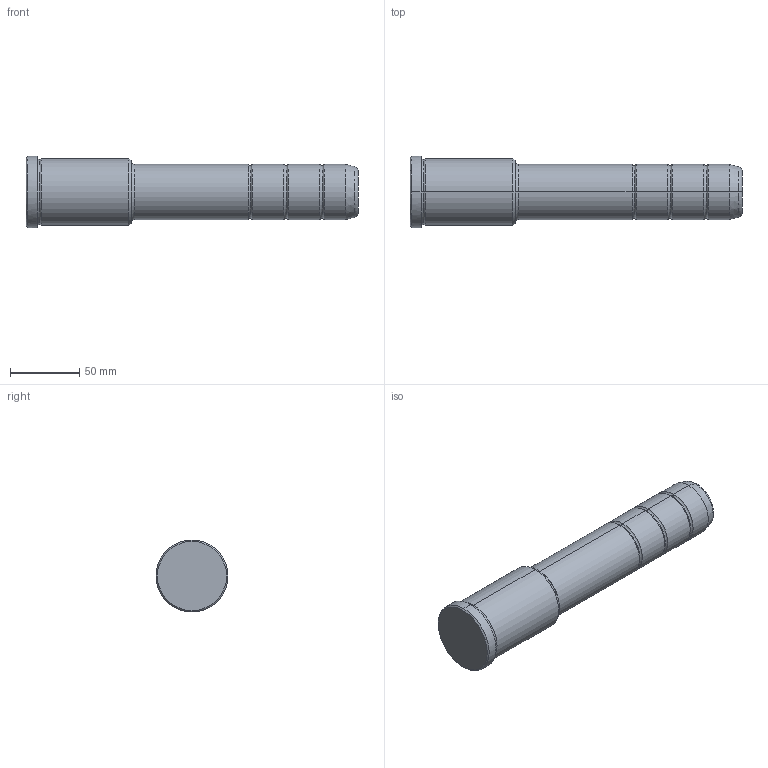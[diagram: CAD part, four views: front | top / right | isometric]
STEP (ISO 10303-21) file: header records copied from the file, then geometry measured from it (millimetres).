
FILE_DESCRIPTION(('CATIA V5 STEP Exchange'),'2;1');
FILE_NAME('C:\Users\Utente\Desktop\IO LAVORO\3D X SITO CF\X SITO\PLASTICA\351\351-40X76X240.stp','2021-10-07T14:26:56+00:00',('none'),('none'),'CATIA Version 5 Release 20 GA (IN-10)','CATIA V5 STEP AP203','none');
FILE_SCHEMA(('CONFIG_CONTROL_DESIGN'));
Length unit declared in the file: millimetre
Products named in the file (1): 351-40X76X240
Bounding box: 240 x 52 x 52 mm (x, y, z)
Volume: 343677.5 mm3; surface area: 35952.9 mm2
Topology: 1 solids, 1 shells, 42 faces, 118 edges, 80 vertices
Faces by surface type: torus 20, cylinder 12, cone 6, plane 4
Entity records: 1472 total; most frequent: CARTESIAN_POINT 353, ORIENTED_EDGE 236, DIRECTION 194, AXIS2_PLACEMENT_3D 135, EDGE_CURVE 118, CIRCLE 92, VERTEX_POINT 80, EDGE_LOOP 44
